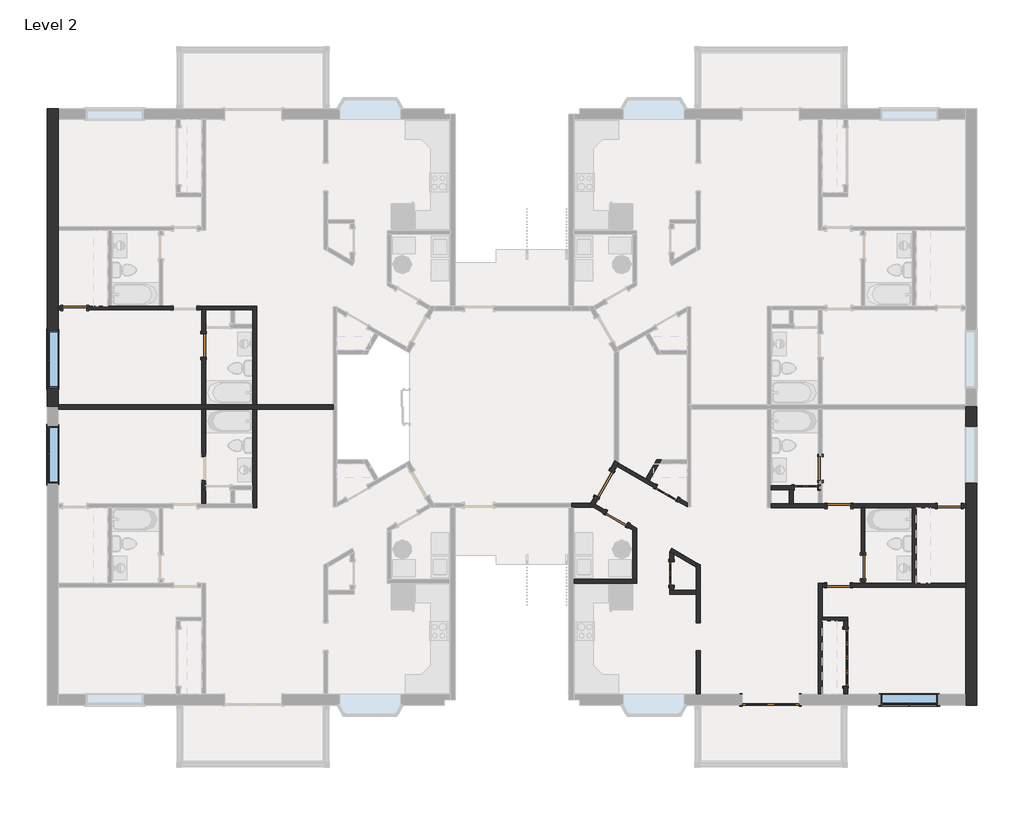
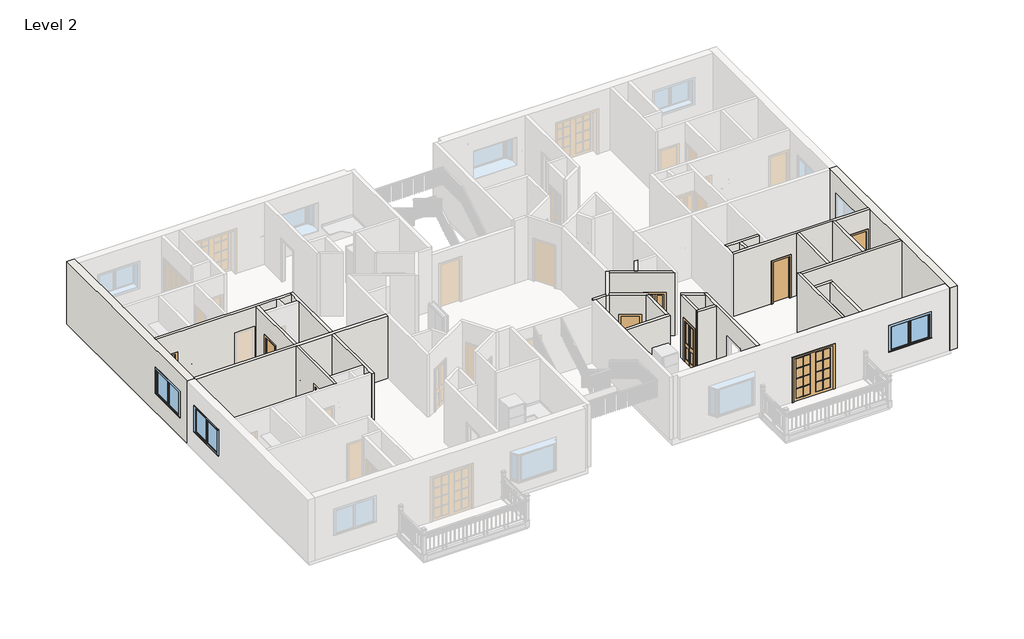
# One storey, part 2 of 5: 28 walls, 14 doors, 3 windows.
"""IFC4 building model written with IfcOpenShell, lengths in millimetres."""

from ifc_helpers import new_model, si_unit, frame, origin, place, context, project, spatial, polyline, outline, extrude, faceted_brep, transform, mapped, element, save
from components import door_28b41c19, door_77c9d7c5, door_beec499a, door_8fade463, door_91cbdfe0, door_39079f6b, door_e1308624, window_565d5888, window_801eb773

model = new_model("IFC4")

# Units and contexts
model_context = context("Model", 3, world=origin())
ifc_project = project(units=[si_unit("LENGTHUNIT", "METRE", prefix="MILLI")], contexts=[model_context])

# Site, building, storey
site = spatial("IfcSite", under=ifc_project)
building = spatial("IfcBuilding", under=site)
storey = spatial("IfcBuildingStorey", under=building, Name="Level 2", Elevation=3048.0)

# Doors
placement = place(None, origin())
door_shape = door_28b41c19(model_context)
element("IfcDoor", 1, ObjectType="Bifold-2 Panel : 30\" x 80\"", at=placement, inside=storey, context=model_context, shape_type="MappedRepresentation", body=[
    mapped(door_shape, transform((4512.9374602, -3569.9786799, 3048.0), x_axis=(0.0, -1.0, 0.0), y_axis=(1.0, 0.0, 0.0), z_axis=(0.0, 0.0, 1.0))),
])
element("IfcDoor", 2, ObjectType="Bifold-2 Panel : 30\" x 80\"", at=placement, inside=storey, context=model_context, shape_type="MappedRepresentation", body=[
    mapped(door_shape, transform((4356.3593145, -978.2984974, 3048.0), x_axis=(0.8660254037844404, -0.4999999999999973, 0.0), y_axis=(0.4999999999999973, 0.8660254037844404, 0.0), z_axis=(0.0, 0.0, 1.0))),
])
door_2_shape = door_77c9d7c5(model_context)
element("IfcDoor", 3, ObjectType="Bifold-2 Panel : 30\" x 80\"", at=placement, inside=storey, context=model_context, shape_type="MappedRepresentation", body=[
    mapped(door_2_shape, transform((8842.0499602, -807.7286799, 3048.0), x_axis=(1.0, 0.0, 0.0), y_axis=(0.0, 1.0, 0.0), z_axis=(0.0, 0.0, 1.0))),
])
door_3_shape = door_beec499a(model_context)
element("IfcDoor", 4, ObjectType="Bifold-4 Panel : 72\" x 80\"", at=placement, inside=storey, context=model_context, shape_type="MappedRepresentation", body=[
    mapped(door_3_shape, transform((10123.1624602, -6287.7786799, 3048.0), x_axis=(0.0, 1.0, 0.0), y_axis=(-1.0, 0.0, 0.0), z_axis=(0.0, 0.0, 1.0))),
])
door_4_shape = door_8fade463(model_context)
element("IfcDoor", 5, ObjectType="Double-Glass 2 : 72\" x 84\"", at=placement, inside=storey, context=model_context, shape_type="MappedRepresentation", body=[
    mapped(door_4_shape, transform((7708.5749602, -7646.6786799, 3048.0), x_axis=(1.0, 0.0, 0.0), y_axis=(0.0, 1.0, 0.0), z_axis=(0.0, 0.0, 1.0))),
])
door_5_shape = door_91cbdfe0(model_context)
element("IfcDoor", 6, ObjectType="Single-Flush : 30\" x 80\"", at=placement, inside=storey, context=model_context, shape_type="MappedRepresentation", body=[
    mapped(door_5_shape, transform((-10574.6625398, 3775.3838201, 3048.0), x_axis=(0.0, 1.0, 0.0), y_axis=(-1.0, 0.0, 0.0), z_axis=(0.0, 0.0, 1.0))),
])
element("IfcDoor", 7, ObjectType="Single-Flush : 30\" x 80\"", at=placement, inside=storey, context=model_context, shape_type="MappedRepresentation", body=[
    mapped(door_5_shape, transform((-14725.9750398, 4983.4713201, 3048.0), x_axis=(-1.0, 0.0, 0.0), y_axis=(0.0, -1.0, 0.0), z_axis=(0.0, 0.0, 1.0))),
])
element("IfcDoor", 8, ObjectType="Single-Flush : 30\" x 80\"", at=placement, inside=storey, context=model_context, shape_type="MappedRepresentation", body=[
    mapped(door_5_shape, transform((9905.6749602, -1391.9286799, 3048.0), x_axis=(-1.0, 0.0, 0.0), y_axis=(0.0, -1.0, 0.0), z_axis=(0.0, 0.0, 1.0))),
])
element("IfcDoor", 9, ObjectType="Single-Flush : 30\" x 80\"", at=placement, inside=storey, context=model_context, shape_type="MappedRepresentation", body=[
    mapped(door_5_shape, transform((9310.3624602, -183.8411799, 3048.0), x_axis=(0.0, -1.0, 0.0), y_axis=(1.0, 0.0, 0.0), z_axis=(0.0, 0.0, 1.0))),
])
element("IfcDoor", 10, ObjectType="Single-Flush : 30\" x 80\"", at=placement, inside=storey, context=model_context, shape_type="MappedRepresentation", body=[
    mapped(door_5_shape, transform((13461.6749602, -1391.9286799, 3048.0), x_axis=(1.0, 0.0, 0.0), y_axis=(0.0, 1.0, 0.0), z_axis=(0.0, 0.0, 1.0))),
])
door_6_shape = door_39079f6b(model_context)
element("IfcDoor", 11, ObjectType="Single-Flush : 30\" x 80\"", at=placement, inside=storey, context=model_context, shape_type="MappedRepresentation", body=[
    mapped(door_6_shape, transform((9889.7999602, -3954.1536799, 3048.0), x_axis=(-1.0, 0.0, 0.0), y_axis=(0.0, -1.0, 0.0), z_axis=(0.0, 0.0, 1.0))),
])
element("IfcDoor", 12, ObjectType="Single-Flush : 30\" x 80\"", at=placement, inside=storey, context=model_context, shape_type="MappedRepresentation", body=[
    mapped(door_6_shape, transform((2740.2368992, -1809.0046321, 3048.0), x_axis=(-0.8660254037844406, 0.4999999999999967, 0.0), y_axis=(-0.4999999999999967, -0.8660254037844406, 0.0), z_axis=(0.0, 0.0, 1.0))),
])
element("IfcDoor", 13, ObjectType="Single-Flush : 30\" x 80\"", at=placement, inside=storey, context=model_context, shape_type="MappedRepresentation", body=[
    mapped(door_6_shape, transform((10685.1374602, -3358.8411799, 3048.0), x_axis=(0.0, -1.0, 0.0), y_axis=(1.0, 0.0, 0.0), z_axis=(0.0, 0.0, 1.0))),
])
door_7_shape = door_e1308624(model_context)
element("IfcDoor", 14, ObjectType="Single-Flush : 36\" x 80\"", at=placement, inside=storey, context=model_context, shape_type="MappedRepresentation", body=[
    mapped(door_7_shape, transform((2339.4553258, -687.0786799, 3048.0), x_axis=(0.4999999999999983, 0.8660254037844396, 0.0), y_axis=(-0.8660254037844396, 0.4999999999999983, 0.0), z_axis=(0.0, 0.0, 1.0))),
])

# Walls
element("IfcWall", 15, ObjectType="Exterior - Brick on Mtl. Stud", at=placement, inside=storey, context=model_context, shape_type="Brep", body=[
    faceted_brep([(-15259.3750398, 1795.7713201, 3048.0), (-15259.3750398, 1873.5588201, 3048.0), (-15259.3750398, 4921.5588201, 3048.0), (-15259.3750398, 5045.3838201, 3048.0), (-15259.3750398, 7483.7838201, 3048.0), (-15259.3750398, 7607.6088201, 3048.0), (-15259.3750398, 11062.0088201, 3048.0), (-15259.3750398, 11414.4338201, 3048.0), (-15259.3750398, 11414.4338201, 6096.0), (-15259.3750398, 11062.0088201, 6096.0), (-15259.3750398, 7607.6088201, 6096.0), (-15259.3750398, 7483.7838201, 6096.0), (-15259.3750398, 5045.3838201, 6096.0), (-15259.3750398, 4921.5588201, 6096.0), (-15259.3750398, 1873.5588201, 6096.0), (-15259.3750398, 1795.7713201, 6096.0), (-15259.3750398, 2421.2463201, 5181.6), (-15259.3750398, 4250.0463201, 5181.6), (-15259.3750398, 4250.0463201, 3962.4), (-15259.3750398, 2421.2463201, 3962.4), (-15611.8000398, 1795.7713201, 3048.0), (-15611.8000398, 1795.7713201, 6096.0), (-15611.8000398, 11414.4338201, 6096.0), (-15611.8000398, 11414.4338201, 3048.0), (-15611.8000398, 2421.2463201, 5181.6), (-15611.8000398, 2421.2463201, 3962.4), (-15611.8000398, 4250.0463201, 3962.4), (-15611.8000398, 4250.0463201, 5181.6)], [[[0, 1, 2, 3, 4, 5, 6, 7, 8, 9, 10, 11, 12, 13, 14, 15], [16, 17, 18, 19]], [[20, 21, 22, 23], [24, 25, 26, 27]], [[7, 6, 5, 4, 3, 2, 1, 0, 20, 23]], [[15, 14, 13, 12, 11, 10, 9, 8, 22, 21]], [[0, 15, 21, 20]], [[8, 7, 23, 22]], [[25, 24, 16, 19]], [[26, 25, 19, 18]], [[27, 26, 18, 17]], [[24, 27, 17, 16]]]),
])
element("IfcWall", 16, ObjectType="Exterior - Brick on Mtl. Stud", at=placement, inside=storey, context=model_context, shape_type="Brep", body=[
    faceted_brep([(13995.0749602, 1795.7713201, 3048.0), (13995.0749602, 1717.9838201, 3048.0), (13995.0749602, -1330.0161799, 3048.0), (13995.0749602, -1453.8411799, 3048.0), (13995.0749602, -3892.2411799, 3048.0), (13995.0749602, -4016.0661799, 3048.0), (13995.0749602, -7470.4661799, 3048.0), (13995.0749602, -7822.8911799, 3048.0), (13995.0749602, -7822.8911799, 6096.0), (13995.0749602, -7470.4661799, 6096.0), (13995.0749602, -4016.0661799, 6096.0), (13995.0749602, -3892.2411799, 6096.0), (13995.0749602, -1453.8411799, 6096.0), (13995.0749602, -1330.0161799, 6096.0), (13995.0749602, 1717.9838201, 6096.0), (13995.0749602, 1795.7713201, 6096.0), (13995.0749602, 1170.2963201, 5181.6), (13995.0749602, -658.5036799, 5181.6), (13995.0749602, -658.5036799, 3962.4), (13995.0749602, 1170.2963201, 3962.4), (14347.4999602, 1795.7713201, 3048.0), (14347.4999602, 1795.7713201, 6096.0), (14347.4999602, -7822.8911799, 6096.0), (14347.4999602, -7822.8911799, 3048.0), (14347.4999602, 1170.2963201, 5181.6), (14347.4999602, 1170.2963201, 3962.4), (14347.4999602, -658.5036799, 3962.4), (14347.4999602, -658.5036799, 5181.6)], [[[0, 1, 2, 3, 4, 5, 6, 7, 8, 9, 10, 11, 12, 13, 14, 15], [16, 17, 18, 19]], [[20, 21, 22, 23], [24, 25, 26, 27]], [[7, 6, 5, 4, 3, 2, 1, 0, 20, 23]], [[15, 14, 13, 12, 11, 10, 9, 8, 22, 21]], [[0, 15, 21, 20]], [[8, 7, 23, 22]], [[25, 24, 16, 19]], [[26, 25, 19, 18]], [[27, 26, 18, 17]], [[24, 27, 17, 16]]]),
])
element("IfcWall", 17, ObjectType="Generic - 6\" Masonry", at=placement, inside=storey, context=model_context, shape_type="Brep", body=[
    faceted_brep([(1902.2640513, -1301.4411799, 3048.0), (1274.4374602, -1301.4411799, 3048.0), (1274.4374602, -1301.4411799, 5791.2), (1274.4374602, -1301.4411799, 6096.0), (1902.2640513, -1301.4411799, 6096.0), (1819.7751316, -1444.3161799, 3048.0), (1819.7751316, -1444.3161799, 6096.0), (1352.2249602, -1444.3161799, 6096.0), (1274.4374602, -1444.3161799, 6096.0), (1274.4374602, -1444.3161799, 5791.2), (1274.4374602, -1444.3161799, 3048.0), (1352.2249602, -1444.3161799, 3048.0)], [[[0, 1, 2, 3, 4]], [[5, 6, 7, 8, 9, 10, 11]], [[1, 0, 5, 11, 10]], [[3, 2, 1, 10, 9, 8]], [[4, 3, 8, 7, 6]], [[0, 4, 6, 5]]]),
])
element("IfcWall", 18, ObjectType="Generic - 6\" Masonry", at=placement, inside=storey, context=model_context, shape_type="Brep", body=[
    faceted_brep([(2686.6690032, 57.1880504, 3048.0), (2667.5273827, 24.0337913, 3048.0), (2506.188636, -255.4131153, 3048.0), (2506.188636, -255.4131153, 5080.0), (2048.988636, -1047.3067445, 5080.0), (2048.988636, -1047.3067445, 3048.0), (1902.2640513, -1301.4411799, 3048.0), (1819.7751316, -1444.3161799, 3048.0), (1819.7751316, -1444.3161799, 6096.0), (1902.2640513, -1301.4411799, 6096.0), (2667.5273827, 24.0337913, 6096.0), (2686.6690032, 57.1880504, 6096.0), (2629.9220156, -326.8506153, 5080.0), (2629.9220156, -326.8506153, 3048.0), (2748.4898827, -121.4850452, 3048.0), (2810.4023827, -14.2494496, 3048.0), (2810.4023827, -14.2494496, 6096.0), (2748.4898827, -121.4850452, 6096.0), (2046.665471, -1337.0805843, 6096.0), (1984.752971, -1444.3161799, 6096.0), (1984.752971, -1444.3161799, 3048.0), (2046.665471, -1337.0805843, 3048.0), (2172.7220156, -1118.7442445, 3048.0), (2172.7220156, -1118.7442445, 5080.0)], [[[0, 1, 2, 3, 4, 5, 6, 7, 8, 9, 10, 11]], [[12, 13, 14, 15, 16, 17, 18, 19, 20, 21, 22, 23]], [[15, 14, 13, 2, 1, 0]], [[22, 21, 20, 7, 6, 5]], [[11, 10, 9, 8, 19, 18, 17, 16]], [[0, 11, 16, 15]], [[8, 7, 20, 19]], [[3, 2, 13, 12]], [[4, 3, 12, 23]], [[5, 4, 23, 22]]]),
])
element("IfcWall", 19, ObjectType="Interior - 4 7/8\" Partition (1-hr)", at=placement, inside=storey, context=model_context, shape_type="Brep", body=[
    faceted_brep([(-10512.7500398, -1330.0161799, 3048.0), (-10512.7500398, -869.6411799, 3048.0), (-10512.7500398, -745.8161799, 3048.0), (-10512.7500398, -564.8411799, 3048.0), (-10512.7500398, -564.8411799, 5080.0), (-10512.7500398, 197.1588201, 5080.0), (-10512.7500398, 197.1588201, 3048.0), (-10512.7500398, 1717.9838201, 3048.0), (-10512.7500398, 1717.9838201, 6096.0), (-10512.7500398, -745.8161799, 6096.0), (-10512.7500398, -869.6411799, 6096.0), (-10512.7500398, -1330.0161799, 6096.0), (-10636.5750398, -564.8411799, 5080.0), (-10636.5750398, -564.8411799, 3048.0), (-10636.5750398, -1330.0161799, 3048.0), (-10636.5750398, -1330.0161799, 6096.0), (-10636.5750398, 1717.9838201, 6096.0), (-10636.5750398, 1717.9838201, 3048.0), (-10636.5750398, 197.1588201, 3048.0), (-10636.5750398, 197.1588201, 5080.0)], [[[0, 1, 2, 3, 4, 5, 6, 7, 8, 9, 10, 11]], [[12, 13, 14, 15, 16, 17, 18, 19]], [[14, 13, 3, 2, 1, 0]], [[18, 17, 7, 6]], [[11, 10, 9, 8, 16, 15]], [[0, 11, 15, 14]], [[8, 7, 17, 16]], [[4, 3, 13, 12]], [[5, 4, 12, 19]], [[6, 5, 19, 18]]]),
])
element("IfcWall", 20, ObjectType="Interior - 4 7/8\" Partition (1-hr)", at=placement, inside=storey, context=model_context, shape_type="Brep", body=[
    faceted_brep([(-8864.9250398, -1453.8411799, 3048.0), (-8864.9250398, 1717.9838201, 3048.0), (-8864.9250398, 1717.9838201, 6096.0), (-8864.9250398, -1453.8411799, 6096.0), (-8988.7500398, -1453.8411799, 3048.0), (-8988.7500398, -1453.8411799, 6096.0), (-8988.7500398, -1330.0161799, 6096.0), (-8988.7500398, -869.6411799, 6096.0), (-8988.7500398, -745.8161799, 6096.0), (-8988.7500398, 1717.9838201, 6096.0), (-8988.7500398, 1717.9838201, 3048.0), (-8988.7500398, -745.8161799, 3048.0), (-8988.7500398, -869.6411799, 3048.0), (-8988.7500398, -1330.0161799, 3048.0)], [[[0, 1, 2, 3]], [[4, 5, 6, 7, 8, 9, 10, 11, 12, 13]], [[1, 0, 4, 13, 12, 11, 10]], [[3, 2, 9, 8, 7, 6, 5]], [[0, 3, 5, 4]], [[2, 1, 10, 9]]]),
])
element("IfcWall", 21, ObjectType="Interior - 4 7/8\" Partition (1-hr)", at=placement, inside=storey, context=model_context, shape_type="Brep", body=[
    faceted_brep([(-10636.5750398, 4921.5588201, 3048.0), (-10636.5750398, 4156.3838201, 3048.0), (-10636.5750398, 4156.3838201, 5080.0), (-10636.5750398, 3394.3838201, 5080.0), (-10636.5750398, 3394.3838201, 3048.0), (-10636.5750398, 1873.5588201, 3048.0), (-10636.5750398, 1873.5588201, 6096.0), (-10636.5750398, 4921.5588201, 6096.0), (-10512.7500398, 4156.3838201, 5080.0), (-10512.7500398, 4156.3838201, 3048.0), (-10512.7500398, 4337.3588201, 3048.0), (-10512.7500398, 4461.1838201, 3048.0), (-10512.7500398, 4921.5588201, 3048.0), (-10512.7500398, 4921.5588201, 6096.0), (-10512.7500398, 4461.1838201, 6096.0), (-10512.7500398, 4337.3588201, 6096.0), (-10512.7500398, 1873.5588201, 6096.0), (-10512.7500398, 1873.5588201, 3048.0), (-10512.7500398, 3394.3838201, 3048.0), (-10512.7500398, 3394.3838201, 5080.0)], [[[0, 1, 2, 3, 4, 5, 6, 7]], [[8, 9, 10, 11, 12, 13, 14, 15, 16, 17, 18, 19]], [[12, 11, 10, 9, 1, 0]], [[18, 17, 5, 4]], [[7, 6, 16, 15, 14, 13]], [[0, 7, 13, 12]], [[6, 5, 17, 16]], [[2, 1, 9, 8]], [[3, 2, 8, 19]], [[4, 3, 19, 18]]]),
])
element("IfcWall", 22, ObjectType="Interior - 4 7/8\" Partition (1-hr)", at=placement, inside=storey, context=model_context, shape_type="Brep", body=[
    faceted_brep([(-15259.3750398, 4921.5588201, 3048.0), (-15106.9750398, 4921.5588201, 3048.0), (-15106.9750398, 4921.5588201, 5080.0), (-14344.9750398, 4921.5588201, 5080.0), (-14344.9750398, 4921.5588201, 3048.0), (-11550.9750398, 4921.5588201, 3048.0), (-11550.9750398, 4921.5588201, 5080.0), (-10788.9750398, 4921.5588201, 5080.0), (-10788.9750398, 4921.5588201, 3048.0), (-10636.5750398, 4921.5588201, 3048.0), (-10512.7500398, 4921.5588201, 3048.0), (-9699.9500398, 4921.5588201, 3048.0), (-9576.1250398, 4921.5588201, 3048.0), (-8988.7500398, 4921.5588201, 3048.0), (-8988.7500398, 4921.5588201, 6096.0), (-9576.1250398, 4921.5588201, 6096.0), (-9699.9500398, 4921.5588201, 6096.0), (-10512.7500398, 4921.5588201, 6096.0), (-10636.5750398, 4921.5588201, 6096.0), (-15259.3750398, 4921.5588201, 6096.0), (-15106.9750398, 5045.3838201, 5080.0), (-15106.9750398, 5045.3838201, 3048.0), (-15259.3750398, 5045.3838201, 3048.0), (-15259.3750398, 5045.3838201, 6096.0), (-13659.1750398, 5045.3838201, 6096.0), (-13535.3500398, 5045.3838201, 6096.0), (-12011.3500398, 5045.3838201, 6096.0), (-11887.5250398, 5045.3838201, 6096.0), (-8988.7500398, 5045.3838201, 6096.0), (-8988.7500398, 5045.3838201, 3048.0), (-10788.9750398, 5045.3838201, 3048.0), (-10788.9750398, 5045.3838201, 5080.0), (-11550.9750398, 5045.3838201, 5080.0), (-11550.9750398, 5045.3838201, 3048.0), (-11887.5250398, 5045.3838201, 3048.0), (-12011.3500398, 5045.3838201, 3048.0), (-13535.3500398, 5045.3838201, 3048.0), (-13659.1750398, 5045.3838201, 3048.0), (-14344.9750398, 5045.3838201, 3048.0), (-14344.9750398, 5045.3838201, 5080.0)], [[[0, 1, 2, 3, 4, 5, 6, 7, 8, 9, 10, 11, 12, 13, 14, 15, 16, 17, 18, 19]], [[20, 21, 22, 23, 24, 25, 26, 27, 28, 29, 30, 31, 32, 33, 34, 35, 36, 37, 38, 39]], [[13, 12, 11, 10, 9, 8, 30, 29]], [[22, 21, 1, 0]], [[38, 37, 36, 35, 34, 33, 5, 4]], [[19, 18, 17, 16, 15, 14, 28, 27, 26, 25, 24, 23]], [[14, 13, 29, 28]], [[0, 19, 23, 22]], [[31, 30, 8, 7]], [[32, 31, 7, 6]], [[33, 32, 6, 5]], [[2, 1, 21, 20]], [[3, 2, 20, 39]], [[4, 3, 39, 38]]]),
])
element("IfcWall", 23, ObjectType="Interior - 4 7/8\" Partition (1-hr)", at=placement, inside=storey, context=model_context, shape_type="Brep", body=[
    faceted_brep([(-8988.7500398, 5045.3838201, 3048.0), (-8988.7500398, 4921.5588201, 3048.0), (-8988.7500398, 4461.1838201, 3048.0), (-8988.7500398, 4337.3588201, 3048.0), (-8988.7500398, 1873.5588201, 3048.0), (-8988.7500398, 1873.5588201, 6096.0), (-8988.7500398, 4337.3588201, 6096.0), (-8988.7500398, 4461.1838201, 6096.0), (-8988.7500398, 4921.5588201, 6096.0), (-8988.7500398, 5045.3838201, 6096.0), (-8864.9250398, 5045.3838201, 3048.0), (-8864.9250398, 5045.3838201, 6096.0), (-8864.9250398, 1873.5588201, 6096.0), (-8864.9250398, 1873.5588201, 3048.0)], [[[0, 1, 2, 3, 4, 5, 6, 7, 8, 9]], [[10, 11, 12, 13]], [[4, 3, 2, 1, 0, 10, 13]], [[9, 8, 7, 6, 5, 12, 11]], [[0, 9, 11, 10]], [[5, 4, 13, 12]]]),
])
element("IfcWall", 24, ObjectType="Interior - 4 7/8\" Partition (1-hr)", at=placement, inside=storey, context=model_context, shape_type="Brep", body=[
    faceted_brep([(5438.4499602, -7470.4661799, 3048.0), (5438.4499602, -6071.8786799, 3048.0), (5438.4499602, -6071.8786799, 5080.0), (5438.4499602, -5157.4786799, 5080.0), (5438.4499602, -5157.4786799, 3048.0), (5438.4499602, -3295.3282721, 3048.0), (5438.4499602, -3295.3282721, 6096.0), (5438.4499602, -7470.4661799, 6096.0), (5314.6249602, -6071.8786799, 5080.0), (5314.6249602, -6071.8786799, 3048.0), (5314.6249602, -7470.4661799, 3048.0), (5314.6249602, -7470.4661799, 6096.0), (5314.6249602, -4244.6661799, 6096.0), (5314.6249602, -4120.8411799, 6096.0), (5314.6249602, -3366.8186692, 6096.0), (5314.6249602, -3223.8378751, 6096.0), (5314.6249602, -3223.8378751, 3048.0), (5314.6249602, -3366.8186692, 3048.0), (5314.6249602, -4120.8411799, 3048.0), (5314.6249602, -4244.6661799, 3048.0), (5314.6249602, -5157.4786799, 3048.0), (5314.6249602, -5157.4786799, 5080.0)], [[[0, 1, 2, 3, 4, 5, 6, 7]], [[8, 9, 10, 11, 12, 13, 14, 15, 16, 17, 18, 19, 20, 21]], [[10, 9, 1, 0]], [[20, 19, 18, 17, 16, 5, 4]], [[7, 6, 15, 14, 13, 12, 11]], [[6, 5, 16, 15]], [[0, 7, 11, 10]], [[4, 3, 21, 20]], [[2, 1, 9, 8]], [[3, 2, 8, 21]]]),
])
element("IfcWall", 25, ObjectType="Interior - 4 7/8\" Partition (1-hr)", at=placement, inside=storey, context=model_context, shape_type="Brep", body=[
    faceted_brep([(9372.2749602, -7470.4661799, 3048.0), (9372.2749602, -5105.0911799, 3048.0), (9372.2749602, -4981.2661799, 3048.0), (9372.2749602, -4016.0661799, 3048.0), (9372.2749602, -3892.2411799, 3048.0), (9372.2749602, -3892.2411799, 6096.0), (9372.2749602, -4016.0661799, 6096.0), (9372.2749602, -4981.2661799, 6096.0), (9372.2749602, -5105.0911799, 6096.0), (9372.2749602, -7470.4661799, 6096.0), (9248.4499602, -7470.4661799, 3048.0), (9248.4499602, -7470.4661799, 6096.0), (9248.4499602, -3892.2411799, 6096.0), (9248.4499602, -3892.2411799, 3048.0)], [[[0, 1, 2, 3, 4, 5, 6, 7, 8, 9]], [[10, 11, 12, 13]], [[4, 3, 2, 1, 0, 10, 13]], [[9, 8, 7, 6, 5, 12, 11]], [[5, 4, 13, 12]], [[0, 9, 11, 10]]]),
])
element("IfcWall", 26, ObjectType="Interior - 4 7/8\" Partition (1-hr)", at=placement, inside=storey, context=model_context, shape_type="Brep", body=[
    faceted_brep([(9372.2749602, -4016.0661799, 3048.0), (9508.7999602, -4016.0661799, 3048.0), (9508.7999602, -4016.0661799, 5080.0), (10270.7999602, -4016.0661799, 5080.0), (10270.7999602, -4016.0661799, 3048.0), (13995.0749602, -4016.0661799, 3048.0), (13995.0749602, -4016.0661799, 6096.0), (9372.2749602, -4016.0661799, 6096.0), (9508.7999602, -3892.2411799, 5080.0), (9508.7999602, -3892.2411799, 3048.0), (9372.2749602, -3892.2411799, 3048.0), (9372.2749602, -3892.2411799, 6096.0), (10623.2249602, -3892.2411799, 6096.0), (10747.0499602, -3892.2411799, 6096.0), (12271.0499602, -3892.2411799, 6096.0), (12394.8749602, -3892.2411799, 6096.0), (13995.0749602, -3892.2411799, 6096.0), (13995.0749602, -3892.2411799, 3048.0), (12394.8749602, -3892.2411799, 3048.0), (12271.0499602, -3892.2411799, 3048.0), (10747.0499602, -3892.2411799, 3048.0), (10623.2249602, -3892.2411799, 3048.0), (10270.7999602, -3892.2411799, 3048.0), (10270.7999602, -3892.2411799, 5080.0)], [[[0, 1, 2, 3, 4, 5, 6, 7]], [[8, 9, 10, 11, 12, 13, 14, 15, 16, 17, 18, 19, 20, 21, 22, 23]], [[10, 9, 1, 0]], [[22, 21, 20, 19, 18, 17, 5, 4]], [[7, 6, 16, 15, 14, 13, 12, 11]], [[6, 5, 17, 16]], [[0, 7, 11, 10]], [[2, 1, 9, 8]], [[3, 2, 8, 23]], [[4, 3, 23, 22]]]),
])
element("IfcWall", 27, ObjectType="Interior - 4 7/8\" Partition (1-hr)", at=placement, inside=storey, context=model_context, shape_type="SweptSolid", body=[
    extrude(outline(polyline([(-3739.8411799, 5080.0), (-3739.8411799, 3048.0), (-3892.2411799, 3048.0), (-3892.2411799, 6096.0), (-1453.8411799, 6096.0), (-1453.8411799, 3048.0), (-2977.8411799, 3048.0), (-2977.8411799, 5080.0), (-3739.8411799, 5080.0)])), frame((10623.2249602, 0.0, 0.0), z_axis=(1.0, 0.0, 0.0), x_axis=(0.0, 1.0, 0.0)), (0.0, 0.0, 1.0), 123.825),
])
element("IfcWall", 28, ObjectType="Interior - 4 7/8\" Partition (1-hr)", at=placement, inside=storey, context=model_context, shape_type="Brep", body=[
    faceted_brep([(9372.2749602, -5105.0911799, 3048.0), (10061.2499602, -5105.0911799, 3048.0), (10185.0749602, -5105.0911799, 3048.0), (10185.0749602, -5105.0911799, 6096.0), (10061.2499602, -5105.0911799, 6096.0), (9372.2749602, -5105.0911799, 6096.0), (9372.2749602, -4981.2661799, 3048.0), (9372.2749602, -4981.2661799, 6096.0), (10185.0749602, -4981.2661799, 6096.0), (10185.0749602, -4981.2661799, 3048.0)], [[[0, 1, 2, 3, 4, 5]], [[6, 7, 8, 9]], [[2, 1, 0, 6, 9]], [[5, 4, 3, 8, 7]], [[3, 2, 9, 8]], [[0, 5, 7, 6]]]),
])
element("IfcWall", 29, ObjectType="Interior - 4 7/8\" Partition (1-hr)", at=placement, inside=storey, context=model_context, shape_type="SweptSolid", body=[
    extrude(outline(polyline([(-5105.0911799, 3048.0), (-5373.3786799, 3048.0), (-5373.3786799, 5080.0), (-7202.1786799, 5080.0), (-7202.1786799, 3048.0), (-7470.4661799, 3048.0), (-7470.4661799, 6096.0), (-5105.0911799, 6096.0), (-5105.0911799, 3048.0)])), frame((10061.2499602, 0.0, 0.0), z_axis=(1.0, 0.0, 0.0), x_axis=(0.0, 1.0, 0.0)), (0.0, 0.0, 1.0), 123.825),
])
element("IfcWall", 30, ObjectType="Interior - 4 7/8\" Partition (1-hr)", at=placement, inside=storey, context=model_context, shape_type="SweptSolid", body=[
    extrude(outline(polyline([(12394.8749602, -1453.8411799), (12394.8749602, -3892.2411799), (12271.0499602, -3892.2411799), (12271.0499602, -1453.8411799), (12394.8749602, -1453.8411799)])), frame((0.0, 0.0, 3048.0), z_axis=(0.0, 0.0, 1.0), x_axis=(1.0, 0.0, 0.0)), (0.0, 0.0, 1.0), 3048.0),
])
element("IfcWall", 31, ObjectType="Interior - 4 7/8\" Partition (1-hr)", at=placement, inside=storey, context=model_context, shape_type="Brep", body=[
    faceted_brep([(13995.0749602, -1330.0161799, 3048.0), (13842.6749602, -1330.0161799, 3048.0), (13842.6749602, -1330.0161799, 5080.0), (13080.6749602, -1330.0161799, 5080.0), (13080.6749602, -1330.0161799, 3048.0), (10286.6749602, -1330.0161799, 3048.0), (10286.6749602, -1330.0161799, 5080.0), (9524.6749602, -1330.0161799, 5080.0), (9524.6749602, -1330.0161799, 3048.0), (9372.2749602, -1330.0161799, 3048.0), (9248.4499602, -1330.0161799, 3048.0), (8435.6499602, -1330.0161799, 3048.0), (8311.8249602, -1330.0161799, 3048.0), (7724.4499602, -1330.0161799, 3048.0), (7724.4499602, -1330.0161799, 6096.0), (8311.8249602, -1330.0161799, 6096.0), (8435.6499602, -1330.0161799, 6096.0), (9248.4499602, -1330.0161799, 6096.0), (9372.2749602, -1330.0161799, 6096.0), (13995.0749602, -1330.0161799, 6096.0), (13842.6749602, -1453.8411799, 5080.0), (13842.6749602, -1453.8411799, 3048.0), (13995.0749602, -1453.8411799, 3048.0), (13995.0749602, -1453.8411799, 6096.0), (12394.8749602, -1453.8411799, 6096.0), (12271.0499602, -1453.8411799, 6096.0), (10747.0499602, -1453.8411799, 6096.0), (10623.2249602, -1453.8411799, 6096.0), (7724.4499602, -1453.8411799, 6096.0), (7724.4499602, -1453.8411799, 3048.0), (9524.6749602, -1453.8411799, 3048.0), (9524.6749602, -1453.8411799, 5080.0), (10286.6749602, -1453.8411799, 5080.0), (10286.6749602, -1453.8411799, 3048.0), (10623.2249602, -1453.8411799, 3048.0), (10747.0499602, -1453.8411799, 3048.0), (12271.0499602, -1453.8411799, 3048.0), (12394.8749602, -1453.8411799, 3048.0), (13080.6749602, -1453.8411799, 3048.0), (13080.6749602, -1453.8411799, 5080.0)], [[[0, 1, 2, 3, 4, 5, 6, 7, 8, 9, 10, 11, 12, 13, 14, 15, 16, 17, 18, 19]], [[20, 21, 22, 23, 24, 25, 26, 27, 28, 29, 30, 31, 32, 33, 34, 35, 36, 37, 38, 39]], [[13, 12, 11, 10, 9, 8, 30, 29]], [[22, 21, 1, 0]], [[38, 37, 36, 35, 34, 33, 5, 4]], [[19, 18, 17, 16, 15, 14, 28, 27, 26, 25, 24, 23]], [[14, 13, 29, 28]], [[0, 19, 23, 22]], [[31, 30, 8, 7]], [[32, 31, 7, 6]], [[33, 32, 6, 5]], [[2, 1, 21, 20]], [[3, 2, 20, 39]], [[4, 3, 39, 38]]]),
])
element("IfcWall", 32, ObjectType="Interior - 4 7/8\" Partition (1-hr)", at=placement, inside=storey, context=model_context, shape_type="Brep", body=[
    faceted_brep([(5314.6249602, -4120.8411799, 3048.0), (4574.8499602, -4120.8411799, 3048.0), (4451.0249602, -4120.8411799, 3048.0), (4451.0249602, -4120.8411799, 6096.0), (4574.8499602, -4120.8411799, 6096.0), (5314.6249602, -4120.8411799, 6096.0), (5314.6249602, -4244.6661799, 3048.0), (5314.6249602, -4244.6661799, 6096.0), (4451.0249602, -4244.6661799, 6096.0), (4451.0249602, -4244.6661799, 3048.0)], [[[0, 1, 2, 3, 4, 5]], [[6, 7, 8, 9]], [[2, 1, 0, 6, 9]], [[5, 4, 3, 8, 7]], [[3, 2, 9, 8]], [[0, 5, 7, 6]]]),
])
element("IfcWall", 33, ObjectType="Interior - 4 7/8\" Partition (1-hr)", at=placement, inside=storey, context=model_context, shape_type="Brep", body=[
    faceted_brep([(4574.8499602, -4120.8411799, 3048.0), (4574.8499602, -3950.9786799, 3048.0), (4574.8499602, -3950.9786799, 5080.0), (4574.8499602, -3188.9786799, 5080.0), (4574.8499602, -3188.9786799, 3048.0), (4574.8499602, -2939.7093738, 3048.0), (4574.8499602, -2939.7093738, 6096.0), (4574.8499602, -4120.8411799, 6096.0), (4451.0249602, -3950.9786799, 5080.0), (4451.0249602, -3950.9786799, 3048.0), (4451.0249602, -4120.8411799, 3048.0), (4451.0249602, -4120.8411799, 6096.0), (4451.0249602, -2868.2189767, 6096.0), (4451.0249602, -2868.2189767, 3048.0), (4451.0249602, -3188.9786799, 3048.0), (4451.0249602, -3188.9786799, 5080.0)], [[[0, 1, 2, 3, 4, 5, 6, 7]], [[8, 9, 10, 11, 12, 13, 14, 15]], [[10, 9, 1, 0]], [[14, 13, 5, 4]], [[7, 6, 12, 11]], [[6, 5, 13, 12]], [[0, 7, 11, 10]], [[2, 1, 9, 8]], [[3, 2, 8, 15]], [[4, 3, 15, 14]]]),
])
element("IfcWall", 34, ObjectType="Interior - 4 7/8\" Partition (1-hr)", at=placement, inside=storey, context=model_context, shape_type="Brep", body=[
    faceted_brep([(1984.752971, -1444.3161799, 3048.0), (2379.3249703, -1672.1224299, 3048.0), (2379.3249703, -1672.1224299, 5080.0), (3039.236328, -2053.1224299, 5080.0), (3039.236328, -2053.1224299, 3048.0), (3260.3999602, -2180.8113125, 3048.0), (3384.2249602, -2252.3017096, 3048.0), (3384.2249602, -2252.3017096, 6096.0), (3260.3999602, -2180.8113125, 6096.0), (1984.752971, -1444.3161799, 6096.0), (2441.2374703, -1564.8868343, 5080.0), (2441.2374703, -1564.8868343, 3048.0), (2046.665471, -1337.0805843, 3048.0), (2046.665471, -1337.0805843, 6096.0), (3384.2249602, -2109.3209154, 6096.0), (3384.2249602, -2109.3209154, 3048.0), (3101.148828, -1945.8868343, 3048.0), (3101.148828, -1945.8868343, 5080.0)], [[[0, 1, 2, 3, 4, 5, 6, 7, 8, 9]], [[10, 11, 12, 13, 14, 15, 16, 17]], [[12, 11, 1, 0]], [[16, 15, 6, 5, 4]], [[9, 8, 7, 14, 13]], [[7, 6, 15, 14]], [[0, 9, 13, 12]], [[2, 1, 11, 10]], [[3, 2, 10, 17]], [[4, 3, 17, 16]]]),
])
element("IfcWall", 35, ObjectType="Interior - 4 7/8\" Partition (1-hr)", at=placement, inside=storey, context=model_context, shape_type="Brep", body=[
    faceted_brep([(3384.2249602, -3765.2411799, 3048.0), (3260.3999602, -3765.2411799, 3048.0), (1352.2249602, -3765.2411799, 3048.0), (1352.2249602, -3765.2411799, 6096.0), (3260.3999602, -3765.2411799, 6096.0), (3384.2249602, -3765.2411799, 6096.0), (3384.2249602, -3889.0661799, 3048.0), (3384.2249602, -3889.0661799, 6096.0), (1352.2249602, -3889.0661799, 6096.0), (1352.2249602, -3889.0661799, 3048.0)], [[[0, 1, 2, 3, 4, 5]], [[6, 7, 8, 9]], [[2, 1, 0, 6, 9]], [[5, 4, 3, 8, 7]], [[0, 5, 7, 6]], [[3, 2, 9, 8]]]),
])
element("IfcWall", 36, ObjectType="Interior - 4 7/8\" Partition (1-hr)", at=placement, inside=storey, context=model_context, shape_type="SweptSolid", body=[
    extrude(outline(polyline([(3384.2249602, -2252.3017096), (3384.2249602, -3765.2411799), (3260.3999602, -3765.2411799), (3260.3999602, -2180.8113125), (3384.2249602, -2252.3017096)])), frame((0.0, 0.0, 3048.0), z_axis=(0.0, 0.0, 1.0), x_axis=(1.0, 0.0, 0.0)), (0.0, 0.0, 1.0), 3048.0),
])
element("IfcWall", 37, ObjectType="Interior - 4 7/8\" Partition (1-hr)", at=placement, inside=storey, context=model_context, shape_type="Brep", body=[
    faceted_brep([(4451.0249602, -2868.2189767, 3048.0), (4574.8499602, -2939.7093738, 3048.0), (5314.6249602, -3366.8186692, 3048.0), (5314.6249602, -3366.8186692, 6096.0), (4574.8499602, -2939.7093738, 6096.0), (4451.0249602, -2868.2189767, 6096.0), (4512.9374602, -2760.9833811, 3048.0), (4512.9374602, -2760.9833811, 6096.0), (5314.6249602, -3223.8378751, 6096.0), (5314.6249602, -3223.8378751, 3048.0)], [[[0, 1, 2, 3, 4, 5]], [[6, 7, 8, 9]], [[2, 1, 0, 6, 9]], [[5, 4, 3, 8, 7]], [[0, 5, 7, 6]], [[3, 2, 9, 8]]]),
])
element("IfcWall", 38, ObjectType="Interior - 4 7/8\" Partition (1-hr)", at=placement, inside=storey, context=model_context, shape_type="Brep", body=[
    faceted_brep([(5012.9999602, -1285.9197539, 3048.0), (4717.2712434, -1115.1806996, 3048.0), (4717.2712434, -1115.1806996, 5080.0), (4057.3598857, -734.1806996, 5080.0), (4057.3598857, -734.1806996, 3048.0), (3786.521266, -577.8119496, 3048.0), (3679.2856704, -515.8994496, 3048.0), (2810.4023827, -14.2494496, 3048.0), (2810.4023827, -14.2494496, 6096.0), (3679.2856704, -515.8994496, 6096.0), (3786.521266, -577.8119496, 6096.0), (5012.9999602, -1285.9197539, 6096.0), (4655.3587434, -1222.4162952, 5080.0), (4655.3587434, -1222.4162952, 3048.0), (5012.9999602, -1428.900548, 3048.0), (5012.9999602, -1428.900548, 6096.0), (2748.4898827, -121.4850452, 6096.0), (2748.4898827, -121.4850452, 3048.0), (3995.4473857, -841.4162952, 3048.0), (3995.4473857, -841.4162952, 5080.0)], [[[0, 1, 2, 3, 4, 5, 6, 7, 8, 9, 10, 11]], [[12, 13, 14, 15, 16, 17, 18, 19]], [[14, 13, 1, 0]], [[18, 17, 7, 6, 5, 4]], [[11, 10, 9, 8, 16, 15]], [[8, 7, 17, 16]], [[0, 11, 15, 14]], [[2, 1, 13, 12]], [[3, 2, 12, 19]], [[4, 3, 19, 18]]]),
])
element("IfcWall", 39, ObjectType="Interior - 4 7/8\" Partition (1-hr)", at=placement, inside=storey, context=model_context, shape_type="Brep", body=[
    faceted_brep([(3786.521266, -577.8119496, 3048.0), (4103.5195463, -28.7548222, 3048.0), (4175.0099434, 95.0701778, 3048.0), (4175.0099434, 95.0701778, 6096.0), (4103.5195463, -28.7548222, 6096.0), (3786.521266, -577.8119496, 6096.0), (3679.2856704, -515.8994496, 3048.0), (3679.2856704, -515.8994496, 6096.0), (4032.0291492, 95.0701778, 6096.0), (4032.0291492, 95.0701778, 3048.0)], [[[0, 1, 2, 3, 4, 5]], [[6, 7, 8, 9]], [[2, 1, 0, 6, 9]], [[5, 4, 3, 8, 7]], [[3, 2, 9, 8]], [[0, 5, 7, 6]]]),
])
element("IfcWall", 40, ObjectType="Interior - 4 7/8\" Partition (1-hr)", at=placement, inside=storey, context=model_context, shape_type="Brep", body=[
    faceted_brep([(9248.4499602, -869.6411799, 6096.0), (8435.6499602, -869.6411799, 6096.0), (8311.8249602, -869.6411799, 6096.0), (7724.4499602, -869.6411799, 6096.0), (7724.4499602, -869.6411799, 3048.0), (8311.8249602, -869.6411799, 3048.0), (8435.6499602, -869.6411799, 3048.0), (8461.0499602, -869.6411799, 3048.0), (8461.0499602, -869.6411799, 5080.0), (9223.0499602, -869.6411799, 5080.0), (9223.0499602, -869.6411799, 3048.0), (9248.4499602, -869.6411799, 3048.0), (7724.4499602, -745.8161799, 6096.0), (9248.4499602, -745.8161799, 6096.0), (9248.4499602, -745.8161799, 3048.0), (9223.0499602, -745.8161799, 3048.0), (9223.0499602, -745.8161799, 5080.0), (8461.0499602, -745.8161799, 5080.0), (8461.0499602, -745.8161799, 3048.0), (7724.4499602, -745.8161799, 3048.0)], [[[0, 1, 2, 3, 4, 5, 6, 7, 8, 9, 10, 11]], [[12, 13, 14, 15, 16, 17, 18, 19]], [[4, 19, 18, 7, 6, 5]], [[14, 11, 10, 15]], [[3, 2, 1, 0, 13, 12]], [[9, 16, 15, 10]], [[16, 9, 8, 17]], [[17, 8, 7, 18]], [[4, 3, 12, 19]], [[0, 11, 14, 13]]]),
])
element("IfcWall", 41, ObjectType="Interior - 4 7/8\" Partition (1-hr)", at=placement, inside=storey, context=model_context, shape_type="SweptSolid", body=[
    extrude(outline(polyline([(8311.8249602, -1330.0161799), (8311.8249602, -869.6411799), (8435.6499602, -869.6411799), (8435.6499602, -1330.0161799), (8311.8249602, -1330.0161799)])), frame((0.0, 0.0, 3048.0), z_axis=(0.0, 0.0, 1.0), x_axis=(1.0, 0.0, 0.0)), (0.0, 0.0, 1.0), 3048.0),
])
element("IfcWall", 42, ObjectType="Interior - 6 1/8\" Partition (2-hr)", at=placement, inside=storey, context=model_context, shape_type="Brep", body=[
    faceted_brep([(-6401.1250398, 1873.5588201, 3048.0), (-8864.9250398, 1873.5588201, 3048.0), (-8988.7500398, 1873.5588201, 3048.0), (-10512.7500398, 1873.5588201, 3048.0), (-10636.5750398, 1873.5588201, 3048.0), (-15259.3750398, 1873.5588201, 3048.0), (-15259.3750398, 1873.5588201, 6096.0), (-10636.5750398, 1873.5588201, 6096.0), (-10512.7500398, 1873.5588201, 6096.0), (-8988.7500398, 1873.5588201, 6096.0), (-8864.9250398, 1873.5588201, 6096.0), (-6401.1250398, 1873.5588201, 6096.0), (-6401.1250398, 1717.9838201, 3048.0), (-6401.1250398, 1717.9838201, 6096.0), (-8864.9250398, 1717.9838201, 6096.0), (-8988.7500398, 1717.9838201, 6096.0), (-10512.7500398, 1717.9838201, 6096.0), (-10636.5750398, 1717.9838201, 6096.0), (-15259.3750398, 1717.9838201, 6096.0), (-15259.3750398, 1717.9838201, 3048.0), (-10636.5750398, 1717.9838201, 3048.0), (-10512.7500398, 1717.9838201, 3048.0), (-8988.7500398, 1717.9838201, 3048.0), (-8864.9250398, 1717.9838201, 3048.0), (-15259.3750398, 1795.7713201, 3048.0), (-15259.3750398, 1795.7713201, 6096.0)], [[[0, 1, 2, 3, 4, 5, 6, 7, 8, 9, 10, 11]], [[12, 13, 14, 15, 16, 17, 18, 19, 20, 21, 22, 23]], [[5, 4, 3, 2, 1, 0, 12, 23, 22, 21, 20, 19, 24]], [[11, 10, 9, 8, 7, 6, 25, 18, 17, 16, 15, 14, 13]], [[0, 11, 13, 12]], [[6, 5, 24, 19, 18, 25]]]),
])

# Windows
window_shape = window_565d5888(model_context)
element("IfcWindow", 43, ObjectType="Casement Dbl with Trim : 72\" x 48\"", at=placement, inside=storey, context=model_context, shape_type="MappedRepresentation", body=[
    mapped(window_shape, transform((-15416.5375398, 255.8963201, 2743.2), x_axis=(0.0, 1.0, 0.0), y_axis=(-1.0, 0.0, 0.0), z_axis=(0.0, 0.0, 1.0))),
])
window_2_shape = window_801eb773(model_context)
element("IfcWindow", 44, ObjectType="Casement Dbl with Trim : 72\" x 48\"", at=placement, inside=storey, context=model_context, shape_type="MappedRepresentation", body=[
    mapped(window_2_shape, transform((-15416.5375398, 3335.6463201, 2743.2), x_axis=(0.0, -1.0, 0.0), y_axis=(1.0, 0.0, 0.0), z_axis=(0.0, 0.0, 1.0))),
])
element("IfcWindow", 45, ObjectType="Casement Dbl with Trim : 72\" x 48\"", at=placement, inside=storey, context=model_context, shape_type="MappedRepresentation", body=[
    mapped(window_2_shape, transform((12171.8312102, -7627.6286799, 2743.2), x_axis=(1.0, 0.0, 0.0), y_axis=(0.0, 1.0, 0.0), z_axis=(0.0, 0.0, 1.0))),
])

save(model, "model.ifc")
